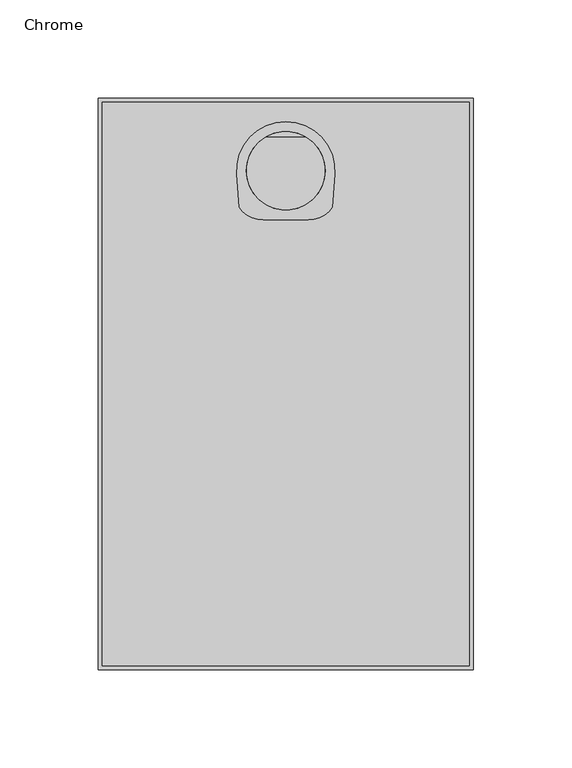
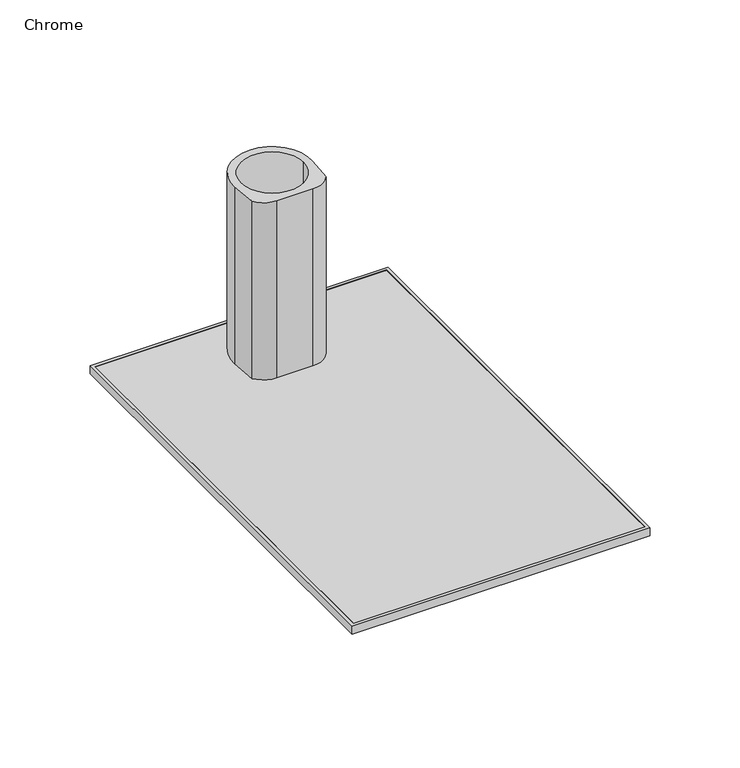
"""IFC4 building model written with IfcOpenShell, lengths in millimetres: flow terminal geometry, z_PlumFixt_Billi_Font and 120mm Riser : Chrome."""

import ifcopenshell
import ifcopenshell.guid

model = None  # the IFC model being written
_history = None  # IfcOwnerHistory: only IFC2X3 demands one
_inside = {}  # id of a spatial element -> (the spatial element, [elements in it])
_under = {}  # id of a project, library or spatial element -> (it, [spatial elements below it])
_declared = {}  # id of a project -> (the project, [libraries it declares])
_typed = {}  # id of a type object -> (the type object, [elements of that type])
_made_of = {}  # id of a material, layer set ... -> (it, [elements and type objects made of it])


def new_model(schema):
    """Start an empty IFC model of exactly this schema.

    Asked for "IFC4X3", IfcOpenShell would pick the latest addendum, in which some entities
    have other attributes; the version numbers below select the first issue.
    IFC2X3 requires an IfcOwnerHistory on every rooted entity: one is made here for all.
    """
    global model, _history
    if schema == "IFC4X3":
        model = ifcopenshell.file(schema_version=(4, 3, 0, 0))
    else:
        model = ifcopenshell.file(schema=schema)
    _inside.clear()
    _under.clear()
    _declared.clear()
    _typed.clear()
    _made_of.clear()
    _history = None
    if model.schema == "IFC2X3":
        org = make("IfcOrganization", Name="unknown")
        user = make(
            "IfcPersonAndOrganization",
            ThePerson=make("IfcPerson", FamilyName="unknown"),
            TheOrganization=org,
        )
        app = make(
            "IfcApplication",
            ApplicationDeveloper=org,
            Version="unknown",
            ApplicationFullName="unknown",
            ApplicationIdentifier="unknown",
        )
        _history = make(
            "IfcOwnerHistory",
            OwningUser=user,
            OwningApplication=app,
            ChangeAction="ADDED",
            CreationDate=0,
        )
    return model


def make(cls, **values):
    """One entity of the class cls with the attributes given. An attribute that is None is left unset."""
    return model.create_entity(
        cls, **{name: value for name, value in values.items() if value is not None}
    )


def rooted(cls, **values):
    """An entity with a GlobalId (a new one), such as an element, a storey or a relation."""
    return make(cls, GlobalId=ifcopenshell.guid.new(), OwnerHistory=_history, **values)


def si_unit(unit_type, name, prefix=None):
    """IfcSIUnit, for example si_unit("LENGTHUNIT", "METRE", prefix="MILLI")."""
    return make("IfcSIUnit", UnitType=unit_type, Prefix=prefix, Name=name)


def assignment(units):
    """IfcUnitAssignment: the units of a project."""
    return None if units is None else make("IfcUnitAssignment", Units=units)


def point(xyz):
    """IfcCartesianPoint."""
    return None if xyz is None else make("IfcCartesianPoint", Coordinates=xyz)


def direction(xyz):
    """IfcDirection."""
    return None if xyz is None else make("IfcDirection", DirectionRatios=xyz)


def frame(location, z_axis=None, x_axis=None):
    """IfcAxis2Placement3D, a coordinate frame: its origin and axes. An axis left out is left unset."""
    return make(
        "IfcAxis2Placement3D",
        Location=point(location),
        Axis=direction(z_axis),
        RefDirection=direction(x_axis),
    )


def frame_2d(location, x_axis=None):
    """IfcAxis2Placement2D, a coordinate frame in the plane: its origin and x axis."""
    return make(
        "IfcAxis2Placement2D", Location=point(location), RefDirection=direction(x_axis)
    )


def origin():
    """The frame at (0, 0, 0) with its axes left unset."""
    return frame((0.0, 0.0, 0.0))


def place(relative_to, where):
    """IfcLocalPlacement: puts the frame where relative to a parent placement (None: the world)."""
    return make(
        "IfcLocalPlacement", PlacementRelTo=relative_to, RelativePlacement=where
    )


def context(
    kind, dimensions, precision=None, world=None, true_north=None, identifier=None
):
    """IfcGeometricRepresentationContext, for example the 3D "Model" context."""
    return make(
        "IfcGeometricRepresentationContext",
        ContextIdentifier=identifier,
        ContextType=kind,
        CoordinateSpaceDimension=dimensions,
        Precision=precision,
        WorldCoordinateSystem=world,
        TrueNorth=true_north,
    )


def project(units=None, contexts=None):
    """IfcProject with its units and contexts."""
    return rooted(
        "IfcProject",
        Name="project",
        RepresentationContexts=contexts,
        UnitsInContext=assignment(units),
    )


def spatial(cls, under=None, at=None, **own):
    """A site, building, storey or space (cls), placed at a placement, below another one or the project."""
    s = rooted(cls, ObjectPlacement=at, **own)
    if under is not None:
        _under.setdefault(under.id(), (under, []))[1].append(s)
    return s


def polyline(points):
    """IfcPolyline through the points."""
    return make("IfcPolyline", Points=[point(p) for p in points])


def circle_curve(where, radius):
    """IfcCircle in the frame where."""
    return make("IfcCircle", Position=where, Radius=radius)


def ellipse_curve(where, semi_axis1, semi_axis2):
    """IfcEllipse in the frame where."""
    return make(
        "IfcEllipse", Position=where, SemiAxis1=semi_axis1, SemiAxis2=semi_axis2
    )


def trimmed(basis, trim1, trim2, sense, master):
    """IfcTrimmedCurve: the piece of a basis curve between two trims."""
    return make(
        "IfcTrimmedCurve",
        BasisCurve=basis,
        Trim1=trim1,
        Trim2=trim2,
        SenseAgreement=sense,
        MasterRepresentation=master,
    )


def segment(curve, same_sense, transition):
    """IfcCompositeCurveSegment."""
    return make(
        "IfcCompositeCurveSegment",
        Transition=transition,
        SameSense=same_sense,
        ParentCurve=curve,
    )


def composite_curve(segments, self_intersect=None):
    """IfcCompositeCurve: segments joined end to end."""
    return make("IfcCompositeCurve", Segments=segments, SelfIntersect=self_intersect)


def outline(outer, holes=None, kind="AREA"):
    """IfcArbitraryClosedProfileDef: a profile drawn as a closed curve; with holes, ...WithVoids."""
    if holes is None:
        return make("IfcArbitraryClosedProfileDef", ProfileType=kind, OuterCurve=outer)
    return make(
        "IfcArbitraryProfileDefWithVoids",
        ProfileType=kind,
        OuterCurve=outer,
        InnerCurves=holes,
    )


def extrude(swept, where, along, depth):
    """IfcExtrudedAreaSolid: the profile swept, set in the frame where, extruded along a direction by depth."""
    return make(
        "IfcExtrudedAreaSolid",
        SweptArea=swept,
        Position=where,
        ExtrudedDirection=direction(along),
        Depth=depth,
    )


def shape(context_of_items, identifier, shape_type, items):
    """IfcShapeRepresentation: the items that make up one representation, for example the "Body"."""
    return make(
        "IfcShapeRepresentation",
        ContextOfItems=context_of_items,
        RepresentationIdentifier=identifier,
        RepresentationType=shape_type,
        Items=items,
    )


def source(mapping_origin, context_of_items, identifier, shape_type, items):
    """IfcRepresentationMap: a shape defined once, which mapped items show again and again."""
    return make(
        "IfcRepresentationMap",
        MappingOrigin=mapping_origin,
        MappedRepresentation=shape(context_of_items, identifier, shape_type, items),
    )


def transform(
    local_origin,
    x_axis=None,
    y_axis=None,
    z_axis=None,
    scale=None,
    scale2=None,
    scale3=None,
    uniform=True,
):
    """IfcCartesianTransformationOperator3D, or its non-uniform kind. x_axis, y_axis, z_axis: its Axis1, 2, 3."""
    if uniform:
        return make(
            "IfcCartesianTransformationOperator3D",
            Axis1=direction(x_axis),
            Axis2=direction(y_axis),
            LocalOrigin=point(local_origin),
            Scale=scale,
            Axis3=direction(z_axis),
        )
    return make(
        "IfcCartesianTransformationOperator3DnonUniform",
        Axis1=direction(x_axis),
        Axis2=direction(y_axis),
        LocalOrigin=point(local_origin),
        Scale=scale,
        Axis3=direction(z_axis),
        Scale2=scale2,
        Scale3=scale3,
    )


def mapped(mapping_source, mapping_target):
    """IfcMappedItem: shows the shape of a source again, moved by a transform."""
    return make(
        "IfcMappedItem", MappingSource=mapping_source, MappingTarget=mapping_target
    )


def made_of(thing, what):
    """Note that an element or type object is made of a material, layer set ...; save() writes the relation."""
    if what is not None:
        _made_of.setdefault(what.id(), (what, []))[1].append(thing)
    return thing


def element(
    cls,
    number,
    at=None,
    inside=None,
    cuts=None,
    type_object=None,
    material=None,
    context=None,
    identifier="Body",
    shape_type=None,
    held_by="IfcProductDefinitionShape",
    body=None,
    shapes=None,
    **own,
):
    """One element of the class cls, such as IfcWall. Its Tag is "e" and its number.

    at: its placement. inside: the storey or other place that contains it. cuts: it is an
    opening in that element (IfcRelVoidsElement). A single representation is given by context,
    identifier, shape_type and body (its items); several are given by shapes. held_by: the class
    of the entity that holds the representations. save() writes the other relations.
    """
    e = rooted(cls, Tag="e%d" % number, ObjectPlacement=at, **own)
    if body is not None:
        shapes = [shape(context, identifier, shape_type, body)]
    if shapes is not None:
        e.Representation = make(held_by, Representations=shapes)
    if inside is not None:
        _inside.setdefault(inside.id(), (inside, []))[1].append(e)
    if cuts is not None:
        rooted(
            "IfcRelVoidsElement", RelatingBuildingElement=cuts, RelatedOpeningElement=e
        )
    if type_object is not None:
        _typed.setdefault(type_object.id(), (type_object, []))[1].append(e)
    return made_of(e, material)


def aggregate(whole, parts):
    """IfcRelAggregates: a whole, such as a stair, and the parts it consists of."""
    return rooted("IfcRelAggregates", RelatingObject=whole, RelatedObjects=parts)


def save(model, path):
    """Write the relations noted so far, then the file.

    IfcRelAggregates (storeys below a building ...), IfcRelContainedInSpatialStructure (elements
    in a storey), IfcRelDefinesByType, IfcRelAssociatesMaterial and IfcRelDeclares: one each for
    every whole, place, type object, material and project.
    """
    for whole, parts in _under.values():
        aggregate(whole, parts)
    for where, things in _inside.values():
        rooted(
            "IfcRelContainedInSpatialStructure",
            RelatedElements=things,
            RelatingStructure=where,
        )
    for kind, things in _typed.values():
        rooted("IfcRelDefinesByType", RelatedObjects=things, RelatingType=kind)
    for what, things in _made_of.values():
        rooted("IfcRelAssociatesMaterial", RelatedObjects=things, RelatingMaterial=what)
    for by, libraries in _declared.values():
        rooted("IfcRelDeclares", RelatingContext=by, RelatedDefinitions=libraries)
    model.write(path)


def plane_surface(at):
    """IfcPlane: the flat surface through the origin of the frame at, square to its z axis."""
    return make("IfcPlane", Position=at)


def cylinder_surface(at, radius):
    """IfcCylindricalSurface: all points at the distance radius from the z axis of the frame at."""
    return make("IfcCylindricalSurface", Position=at, Radius=radius)


def revolved_surface(curve, axis_point, axis_direction):
    """IfcSurfaceOfRevolution: the curve turned about the line through axis_point along axis_direction."""
    return make(
        "IfcSurfaceOfRevolution",
        SweptCurve=make("IfcArbitraryOpenProfileDef", ProfileType="CURVE", Curve=curve),
        AxisPosition=make("IfcAxis1Placement", Location=point(axis_point), Axis=direction(axis_direction)),
    )


def advanced_brep(points, edges, surfaces, faces):
    """IfcAdvancedBrep: a solid bounded by faces that lie on surfaces and meet in shared edges.

    An edge is (start, end): straight between two places in points (the first is 0);
    or (start, end, curve); or (start, end, curve, False) where it runs against its curve.
    A face is (place in surfaces, loops), or (place, loops, False) where it looks against
    its surface's normal. A loop lists edges by number (the first is 1), with a minus sign
    where the edge is run from its end to its start. The first loop is the outer one.
    """
    corners = [point(p) for p in points]
    vertices = [make("IfcVertexPoint", VertexGeometry=c) for c in corners]
    made = []
    for start, end, *more in edges:
        made.append(
            make(
                "IfcEdgeCurve",
                EdgeStart=vertices[start],
                EdgeEnd=vertices[end],
                EdgeGeometry=more[0] if more else make("IfcPolyline", Points=[corners[start], corners[end]]),
                SameSense=more[1] if len(more) > 1 else True,
            )
        )
    hull = []
    for where, loops, *sense in faces:
        bounds = []
        for j, loop in enumerate(loops):
            ring = [make("IfcOrientedEdge", EdgeElement=made[abs(k) - 1], Orientation=k > 0) for k in loop]
            bounds.append(
                make(
                    "IfcFaceOuterBound" if j == 0 else "IfcFaceBound",
                    Bound=make("IfcEdgeLoop", EdgeList=ring),
                    Orientation=True,
                )
            )
        hull.append(make("IfcAdvancedFace", Bounds=bounds, FaceSurface=surfaces[where], SameSense=sense[0] if sense else True))
    return make("IfcAdvancedBrep", Outer=make("IfcClosedShell", CfsFaces=hull))


def chrome_73782d16(model_context):
    return source(origin(), model_context, "Body", "SolidModel", [
        advanced_brep(
        [(-22.7552944, 76.1913164, 120.0), (-10.4999952, 69.8404613, 120.0), (12.4999952, 69.8404608, 120.0), (24.7552944, 76.1913164, 120.0), (25.9391013, 93.1205431, 120.0), (-23.9391013, 93.1205431, 120.0), (21.0, 94.8404608, 120.0), (-19.0, 94.8404608, 120.0), (-22.7552944, 76.1913164, 0.0), (-23.9391013, 93.1205431, 0.0), (25.9391013, 93.1205431, 0.0), (24.7552944, 76.1913164, 0.0), (12.4999952, 69.8404613, 0.0), (-10.4999952, 69.8404608, 0.0), (21.0, 94.8404608, 0.0), (-19.0, 94.8404608, 0.0)],
        [
            (0, 1, circle_curve(frame((-10.4999952, 84.8404666, 120.0), z_axis=(0.0, 0.0, 1.0), x_axis=(-1.0, 0.0, 0.0)), 15.0000053)),
            (1, 2),
            (2, 3, circle_curve(frame((12.4999952, 84.8404666, 120.0), z_axis=(0.0, 0.0, 1.0), x_axis=(-1.0, 0.0, 0.0)), 15.0000053)),
            (3, 4),
            (4, 5, circle_curve(frame((1.0, 94.864455, 120.0), z_axis=(0.0, 0.0, 1.0), x_axis=(-1.0, 0.0, 0.0)), 25.0)),
            (5, 0),
            (6, 7, circle_curve(frame((1.0, 94.8404608, 120.0), z_axis=(0.0, 0.0, -1.0), x_axis=(-1.0, 0.0, 0.0)), 20.0)),
            (7, 6, circle_curve(frame((1.0, 94.8404608, 120.0), z_axis=(0.0, 0.0, -1.0), x_axis=(-1.0, 0.0, 0.0)), 20.0)),
            (8, 9),
            (9, 10, circle_curve(frame((1.0, 94.864455, 0.0), z_axis=(0.0, 0.0, -1.0), x_axis=(-1.0, 0.0, 0.0)), 25.0)),
            (10, 11),
            (11, 12, circle_curve(frame((12.4999952, 84.8404666, 0.0), z_axis=(0.0, 0.0, -1.0), x_axis=(-1.0, 0.0, 0.0)), 15.0000053)),
            (12, 13),
            (13, 8, circle_curve(frame((-10.4999952, 84.8404666, 0.0), z_axis=(0.0, 0.0, -1.0), x_axis=(-1.0, 0.0, 0.0)), 15.0000053)),
            (14, 15, circle_curve(frame((1.0, 94.8404608, 0.0), z_axis=(0.0, 0.0, 1.0), x_axis=(-1.0, 0.0, 0.0)), 20.0)),
            (15, 14, circle_curve(frame((1.0, 94.8404608, 0.0), z_axis=(0.0, 0.0, 1.0), x_axis=(-1.0, 0.0, 0.0)), 20.0)),
            (6, 14),
            (15, 7),
            (0, 8),
            (13, 1),
            (12, 2),
            (11, 3),
            (10, 4),
            (9, 5),
        ],
        [
            plane_surface(frame((-19.0, 94.8404608, 120.0), z_axis=(0.0, 0.0, 1.0), x_axis=(0.0, 1.0, 0.0))),
            plane_surface(frame((-19.0, 94.8404608, 0.0), z_axis=(0.0, 0.0, -1.0), x_axis=(0.0, -1.0, 0.0))),
            revolved_surface(polyline([(-19.0, 94.8404608, 0.0), (-19.0, 94.8404608, 120.0)]), (1.0, 94.8404608, 0.0), (0.0, 0.0, -1.0)),
            cylinder_surface(frame((-10.4999952, 84.8404666, 0.0), z_axis=(0.0, 0.0, 1.0), x_axis=(-1.0, 0.0, 0.0)), 15.0000053),
            plane_surface(frame((-10.4999952, 69.8404608, 120.0), z_axis=(0.0, -1.0, 0.0), x_axis=(0.0, 0.0, -1.0))),
            cylinder_surface(frame((12.4999952, 84.8404666, 0.0), z_axis=(0.0, 0.0, 1.0), x_axis=(-1.0, 0.0, 0.0)), 15.0000053),
            plane_surface(frame((24.7552944, 76.1913164, 120.0), z_axis=(0.9975640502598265, -0.06975647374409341, 0.0), x_axis=(0.0, 0.0, -1.0))),
            cylinder_surface(frame((1.0, 94.864455, 0.0), z_axis=(0.0, 0.0, 1.0), x_axis=(-1.0, 0.0, 0.0)), 25.0),
            plane_surface(frame((-23.9391013, 93.1205431, 120.0), z_axis=(-0.9975640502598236, -0.06975647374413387, 0.0), x_axis=(0.0, 0.0, -1.0))),
        ],
        [
            (0, [[1, 2, 3, 4, 5, 6], [7, 8]]),
            (1, [[9, 10, 11, 12, 13, 14], [15, 16]]),
            (2, [[-7, 17, -16, 18]]),
            (2, [[-8, -18, -15, -17]]),
            (3, [[-1, 19, -14, 20]]),
            (4, [[-2, -20, -13, 21]]),
            (5, [[-3, -21, -12, 22]]),
            (6, [[-4, -22, -11, 23]]),
            (7, [[-5, -23, -10, 24]]),
            (8, [[-6, -24, -9, -19]]),
        ],
    ),
        advanced_brep(
        [(76.6433025, 111.8933025, -18.0), (-74.6433025, 111.8933025, -18.0), (-74.6433025, -139.3933025, -18.0), (76.6433025, -139.3933025, -18.0), (21.0, -13.75, -18.0), (-19.0, -13.75, -18.0), (-75.6147367, 112.8647367, -20.0), (77.6147367, 112.8647367, -20.0), (77.6147367, -140.3647367, -20.0), (-75.6147367, -140.3647367, -20.0), (21.0, -13.75, -20.0), (-19.0, -13.75, -20.0), (-94.5, 131.75, -5.5), (-94.5, 131.75, 0.0), (96.5, 131.75, 0.0), (96.5, 131.75, -5.5), (-78.5070058, 115.7570058, -9.2059048), (-83.3366349, 120.5866349, -5.5), (85.3366349, 120.5866349, -5.5), (80.5070058, 115.7570058, -9.2059048), (-92.5, 129.75, 0.0), (-92.5, 129.75, -1.9884397), (94.5, 129.75, -1.9884397), (94.5, 129.75, 0.0), (96.5, -159.25, 0.0), (96.5, -159.25, -5.5), (85.3366349, -148.0866349, -5.5), (80.5070058, -143.2570058, -9.2059048), (94.5, -157.25, -1.9884397), (94.5, -157.25, 0.0), (-94.5, -159.25, 0.0), (-94.5, -159.25, -5.5), (-83.3366349, -148.0866349, -5.5), (-78.5070058, -143.2570058, -9.2059048), (-92.5, -157.25, -1.9884397), (-92.5, -157.25, 0.0), (76.6433025, 111.8933025, -1.9884397), (76.6433025, -139.3933025, -1.9884397), (-74.6433025, -139.3933025, -1.9884397), (-74.6433025, 111.8933025, -1.9884397)],
        [
            (0, 1),
            (1, 2),
            (2, 3),
            (3, 0),
            (4, 5, circle_curve(frame((1.0, -13.75, -18.0), z_axis=(0.0, 0.0, -1.0), x_axis=(-1.0, 0.0, 0.0)), 20.0)),
            (5, 4, circle_curve(frame((1.0, -13.75, -18.0), z_axis=(0.0, 0.0, -1.0), x_axis=(-1.0, 0.0, 0.0)), 20.0)),
            (6, 7),
            (7, 8),
            (8, 9),
            (9, 6),
            (10, 11, circle_curve(frame((1.0, -13.75, -20.0), z_axis=(0.0, 0.0, 1.0), x_axis=(-1.0, 0.0, 0.0)), 20.0)),
            (11, 10, circle_curve(frame((1.0, -13.75, -20.0), z_axis=(0.0, 0.0, 1.0), x_axis=(-1.0, 0.0, 0.0)), 20.0)),
            (12, 13),
            (13, 14),
            (14, 15),
            (15, 12),
            (16, 17, ellipse_curve(frame((-83.3366349, 120.5866349, -10.5), z_axis=(-0.7071067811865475, -0.7071067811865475, 0.0), x_axis=(0.7071067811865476, -0.7071067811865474, 0.0)), 7.0710678, 5.0)),
            (17, 18),
            (18, 19, ellipse_curve(frame((85.3366349, 120.5866349, -10.5), z_axis=(0.7071067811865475, -0.7071067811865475, 0.0), x_axis=(0.7071067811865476, 0.7071067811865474, 0.0)), 7.0710678, 5.0)),
            (19, 16),
            (19, 7),
            (6, 16),
            (20, 21),
            (21, 22),
            (22, 23),
            (23, 20),
            (14, 24),
            (24, 25),
            (25, 15),
            (18, 26),
            (26, 27, ellipse_curve(frame((85.3366349, -148.0866349, -10.5), z_axis=(-0.7071067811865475, -0.7071067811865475, 0.0), x_axis=(0.7071067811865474, -0.7071067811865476, 0.0)), 7.0710678, 5.0)),
            (27, 19),
            (27, 8),
            (22, 28),
            (28, 29),
            (29, 23),
            (24, 30),
            (30, 31),
            (31, 25),
            (26, 32),
            (32, 33, ellipse_curve(frame((-83.3366349, -148.0866349, -10.5), z_axis=(-0.7071067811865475, 0.7071067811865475, 0.0), x_axis=(-0.7071067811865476, -0.7071067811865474, 0.0)), 7.0710678, 5.0)),
            (33, 27),
            (33, 9),
            (28, 34),
            (34, 35),
            (35, 29),
            (13, 30),
            (35, 20),
            (12, 31),
            (17, 32),
            (16, 33),
            (21, 34),
            (36, 37),
            (37, 38),
            (38, 39),
            (39, 36),
            (39, 1),
            (0, 36),
            (3, 37),
            (2, 38),
            (4, 10),
            (11, 5),
        ],
        [
            plane_surface(frame((76.6433025, -139.3933025, -18.0), z_axis=(0.0, 0.0, 1.0), x_axis=(1.0, 0.0, 0.0))),
            plane_surface(frame((76.6433025, -139.3933025, -20.0), z_axis=(0.0, 0.0, -1.0), x_axis=(-1.0, 0.0, 0.0))),
            plane_surface(frame((-94.5, 131.75, 0.0), z_axis=(0.0, 1.0, 0.0), x_axis=(1.0, 0.0, 0.0))),
            revolved_surface(polyline([(90.33663489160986, 125.5866349, -10.5), (-88.33663489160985, 125.5866349, -10.5)]), (-94.5, 120.5866349, -10.5), (1.0, 0.0, 0.0)),
            plane_surface(frame((-78.5070058, 115.7570058, -9.2059048), z_axis=(0.0, 0.9659258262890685, -0.2588190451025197), x_axis=(1.0, 0.0, 0.0))),
            plane_surface(frame((-92.5, 129.75, -1.9884397), z_axis=(0.0, -1.0, 0.0), x_axis=(1.0, 0.0, 0.0))),
            plane_surface(frame((96.5, 131.75, 0.0), z_axis=(1.0, 0.0, 0.0), x_axis=(0.0, -1.0, 0.0))),
            revolved_surface(polyline([(90.3366349, -153.0866348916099, -10.5), (90.3366349, 125.58663489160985, -10.5)]), (85.3366349, 131.75, -10.5), (0.0, -1.0, 0.0)),
            plane_surface(frame((80.5070058, 115.7570058, -9.2059048), z_axis=(0.9659258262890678, 0.0, -0.25881904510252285), x_axis=(0.0, -1.0, 0.0))),
            plane_surface(frame((94.5, 129.75, -1.9884397), z_axis=(-1.0, 0.0, 0.0), x_axis=(0.0, -1.0, 0.0))),
            plane_surface(frame((96.5, -159.25, 0.0), z_axis=(0.0, -1.0, 0.0), x_axis=(-1.0, 0.0, 0.0))),
            revolved_surface(polyline([(-88.33663489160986, -153.0866349, -10.5), (90.33663489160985, -153.0866349, -10.5)]), (96.5, -148.0866349, -10.5), (-1.0, 0.0, 0.0)),
            plane_surface(frame((80.5070058, -143.2570058, -9.2059048), z_axis=(0.0, -0.9659258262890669, -0.25881904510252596), x_axis=(-1.0, 0.0, 0.0))),
            plane_surface(frame((94.5, -157.25, -1.9884397), z_axis=(0.0, 1.0, 0.0), x_axis=(-1.0, 0.0, 0.0))),
            plane_surface(frame((-92.5, -157.25, 0.0), z_axis=(0.0, 0.0, 1.0), x_axis=(0.0, 1.0, 0.0))),
            plane_surface(frame((-94.5, -159.25, 0.0), z_axis=(-1.0, 0.0, 0.0), x_axis=(0.0, 1.0, 0.0))),
            plane_surface(frame((-94.5, -159.25, -5.5), z_axis=(0.0, 0.0, -1.0), x_axis=(0.0, 1.0, 0.0))),
            revolved_surface(polyline([(-88.3366349, 125.58663489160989, -10.5), (-88.3366349, -153.08663489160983, -10.5)]), (-83.3366349, -159.25, -10.5), (0.0, 1.0, 0.0)),
            plane_surface(frame((-78.5070058, -143.2570058, -9.2059048), z_axis=(-0.9659258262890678, 0.0, -0.25881904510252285), x_axis=(0.0, 1.0, 0.0))),
            plane_surface(frame((-74.6433025, -139.3933025, -1.9884397), z_axis=(0.0, 0.0, 1.0), x_axis=(0.0, 1.0, 0.0))),
            plane_surface(frame((-92.5, -157.25, -1.9884397), z_axis=(1.0, 0.0, 0.0), x_axis=(0.0, 1.0, 0.0))),
            plane_surface(frame((-74.6433025, 111.8933025, -20.0), z_axis=(0.0, -1.0, 0.0), x_axis=(1.0, 0.0, 0.0))),
            plane_surface(frame((76.6433025, 111.8933025, -20.0), z_axis=(-1.0, 0.0, 0.0), x_axis=(0.0, -1.0, 0.0))),
            plane_surface(frame((76.6433025, -139.3933025, -20.0), z_axis=(0.0, 1.0, 0.0), x_axis=(-1.0, 0.0, 0.0))),
            plane_surface(frame((-74.6433025, -139.3933025, -20.0), z_axis=(1.0, 0.0, 0.0), x_axis=(0.0, 1.0, 0.0))),
            revolved_surface(polyline([(-19.0, -13.75, -20.0), (-19.0, -13.75, -18.0)]), (1.0, -13.75, -20.0), (0.0, 0.0, -1.0)),
        ],
        [
            (0, [[1, 2, 3, 4], [5, 6]]),
            (1, [[7, 8, 9, 10], [11, 12]]),
            (2, [[13, 14, 15, 16]]),
            (3, [[17, 18, 19, 20]]),
            (4, [[-20, 21, -7, 22]]),
            (5, [[23, 24, 25, 26]]),
            (6, [[-15, 27, 28, 29]]),
            (7, [[-19, 30, 31, 32]]),
            (8, [[-21, -32, 33, -8]]),
            (9, [[-25, 34, 35, 36]]),
            (10, [[-28, 37, 38, 39]]),
            (11, [[-31, 40, 41, 42]]),
            (12, [[-33, -42, 43, -9]]),
            (13, [[-35, 44, 45, 46]]),
            (14, [[-14, 47, -37, -27], [-26, -36, -46, 48]]),
            (15, [[-13, 49, -38, -47]]),
            (16, [[-16, -29, -39, -49], [-18, 50, -40, -30]]),
            (17, [[-17, 51, -41, -50]]),
            (18, [[-22, -10, -43, -51]]),
            (19, [[-24, 52, -44, -34], [53, 54, 55, 56]]),
            (20, [[-23, -48, -45, -52]]),
            (21, [[-56, 57, -1, 58]]),
            (22, [[-53, -58, -4, 59]]),
            (23, [[-54, -59, -3, 60]]),
            (24, [[-55, -60, -2, -57]]),
            (25, [[-5, 61, -12, 62]]),
            (25, [[-6, -62, -11, -61]]),
        ],
    ),
        extrude(outline(composite_curve([segment(trimmed(circle_curve(frame_2d((1.0, -13.75)), 22.0), [point((23.0, -13.75))], [point((-21.0, -13.75))], False, "CARTESIAN"), True, "CONTINUOUS"), segment(trimmed(circle_curve(frame_2d((1.0, -13.75)), 22.0), [point((-21.0, -13.75))], [point((23.0, -13.75))], False, "CARTESIAN"), True, "CONTINUOUS")], self_intersect=False), holes=[composite_curve([segment(trimmed(circle_curve(frame_2d((1.0, -13.75)), 20.0), [point((21.0, -13.75))], [point((-19.0, -13.75))], True, "CARTESIAN"), True, "CONTINUOUS"), segment(trimmed(circle_curve(frame_2d((1.0, -13.75)), 20.0), [point((-19.0, -13.75))], [point((21.0, -13.75))], True, "CARTESIAN"), True, "CONTINUOUS")], self_intersect=False)]), frame((0.0, 0.0, -35.0), z_axis=(0.0, 0.0, 1.0), x_axis=(1.0, 0.0, 0.0)), (0.0, 0.0, 1.0), 15.0),
        extrude(outline(polyline([(-92.5, -157.25), (-92.5, 129.75), (94.5, 129.75), (94.5, -157.25), (-92.5, -157.25)]), holes=[composite_curve([segment(trimmed(circle_curve(frame_2d((1.0, 94.8404608)), 20.0), [point((1.0, 74.8404608))], [point((1.0, 114.8404608))], True, "CARTESIAN"), True, "CONTINUOUS"), segment(trimmed(circle_curve(frame_2d((1.0, 94.8404608)), 20.0), [point((1.0, 114.8404608))], [point((1.0, 74.8404608))], True, "CARTESIAN"), True, "CONTINUOUS")], self_intersect=False)]), frame((0.0, 0.0, -1.1505737), z_axis=(0.0, 0.0, 1.0), x_axis=(1.0, 0.0, 0.0)), (0.0, 0.0, 1.0), 1.1505737),
    ])


if __name__ == "__main__":
    model = new_model("IFC4")
    model_context = context("Model", 3, world=origin())
    ifc_project = project(units=[si_unit("LENGTHUNIT", "METRE", prefix="MILLI")], contexts=[model_context])
    site = spatial("IfcSite", under=ifc_project)
    building = spatial("IfcBuilding", under=site)
    placement = place(None, origin())
    chrome_shape = chrome_73782d16(model_context)
    element("IfcFlowTerminal", 1, ObjectType="z_PlumFixt_Billi_Font and 120mm Riser : Chrome", at=placement, inside=building, context=model_context, shape_type="MappedRepresentation", body=[
        mapped(chrome_shape, transform((0.0, 0.0, 0.0), x_axis=(1.0, 0.0, 0.0), y_axis=(0.0, 1.0, 0.0), z_axis=(0.0, 0.0, 1.0))),
    ])
    save(model, "model.ifc")
